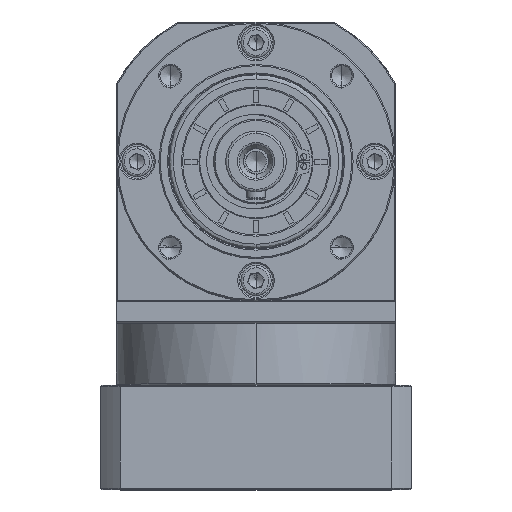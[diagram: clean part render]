
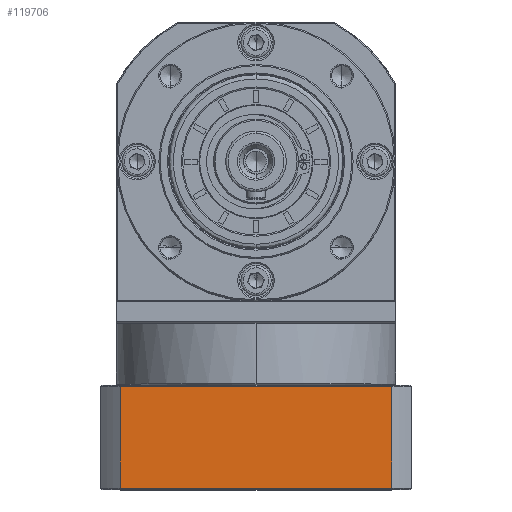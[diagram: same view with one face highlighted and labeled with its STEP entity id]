
A CAD part, top view. The second image highlights one B-rep face of the part: STEP entity #119706.
In plain terms, the highlighted planar face has unit normal (0, 0, 1).
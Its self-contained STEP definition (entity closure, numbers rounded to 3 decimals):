
#2118 = ORIENTED_EDGE ( 'NONE', *, *, #30743, .F. ) ;
#13039 = CARTESIAN_POINT ( 'NONE',  ( -179.502, -156.373, 67.389 ) ) ;
#19633 = DIRECTION ( 'NONE',  ( 0., 0., -1. ) ) ;
#19663 = DIRECTION ( 'NONE',  ( 0., -1., 0. ) ) ;
#21038 = LINE ( 'NONE', #157879, #93648 ) ;
#21244 = CARTESIAN_POINT ( 'NONE',  ( -291.377, -114.373, 67.389 ) ) ;
#21551 = VECTOR ( 'NONE', #41722, 1000. ) ;
#22464 = VECTOR ( 'NONE', #148473, 1000. ) ;
#24722 = VERTEX_POINT ( 'NONE', #30990 ) ;
#26036 = ORIENTED_EDGE ( 'NONE', *, *, #121794, .F. ) ;
#30743 = EDGE_CURVE ( 'NONE', #24722, #54290, #138853, .T. ) ;
#30990 = CARTESIAN_POINT ( 'NONE',  ( -291.377, -156.373, 67.389 ) ) ;
#34378 = CARTESIAN_POINT ( 'NONE',  ( -299.44, -156.873, 67.389 ) ) ;
#36807 = CARTESIAN_POINT ( 'NONE',  ( -291.377, -156.873, 67.389 ) ) ;
#38980 = ORIENTED_EDGE ( 'NONE', *, *, #122708, .F. ) ;
#41722 = DIRECTION ( 'NONE',  ( 1., 0., 0. ) ) ;
#47632 = LINE ( 'NONE', #103827, #111193 ) ;
#51289 = EDGE_LOOP ( 'NONE', ( #106810, #26036, #2118, #38980 ) ) ;
#53974 = AXIS2_PLACEMENT_3D ( 'NONE', #34378, #19633, #159504 ) ;
#54290 = VERTEX_POINT ( 'NONE', #21244 ) ;
#56432 = CARTESIAN_POINT ( 'NONE',  ( -299.44, -114.373, 67.389 ) ) ;
#67738 = LINE ( 'NONE', #56432, #21551 ) ;
#75851 = EDGE_CURVE ( 'NONE', #128253, #126526, #47632, .T. ) ;
#80962 = FACE_OUTER_BOUND ( 'NONE', #51289, .T. ) ;
#89883 = DIRECTION ( 'NONE',  ( -1., 0., 0. ) ) ;
#93648 = VECTOR ( 'NONE', #89883, 1000. ) ;
#103827 = CARTESIAN_POINT ( 'NONE',  ( -179.502, 138.542, 67.389 ) ) ;
#106810 = ORIENTED_EDGE ( 'NONE', *, *, #75851, .F. ) ;
#111193 = VECTOR ( 'NONE', #19663, 1000. ) ;
#114832 = PLANE ( 'NONE',  #53974 ) ;
#119706 = ADVANCED_FACE ( 'NONE', ( #80962 ), #114832, .F. ) ;
#121794 = EDGE_CURVE ( 'NONE', #54290, #128253, #67738, .T. ) ;
#122708 = EDGE_CURVE ( 'NONE', #126526, #24722, #21038, .T. ) ;
#126526 = VERTEX_POINT ( 'NONE', #13039 ) ;
#128253 = VERTEX_POINT ( 'NONE', #169581 ) ;
#138853 = LINE ( 'NONE', #36807, #22464 ) ;
#148473 = DIRECTION ( 'NONE',  ( 0., 1., 0. ) ) ;
#157879 = CARTESIAN_POINT ( 'NONE',  ( -299.44, -156.373, 67.389 ) ) ;
#159504 = DIRECTION ( 'NONE',  ( -1., 0., 0. ) ) ;
#169581 = CARTESIAN_POINT ( 'NONE',  ( -179.502, -114.373, 67.389 ) ) ;
